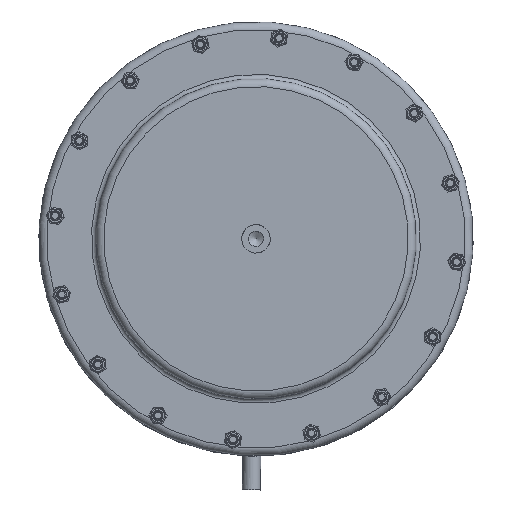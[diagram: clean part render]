
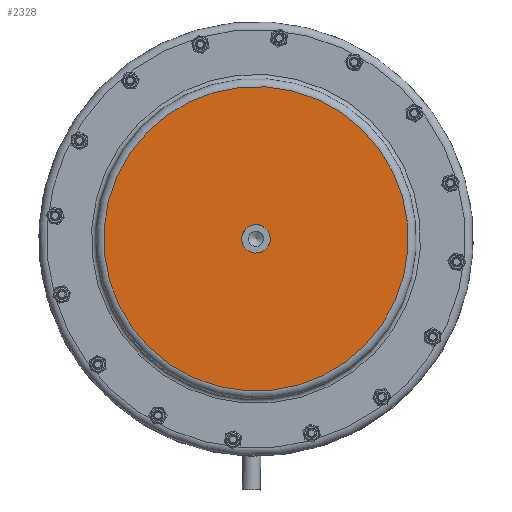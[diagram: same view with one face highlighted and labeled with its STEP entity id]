
A CAD part, top view. The second image highlights one B-rep face of the part: STEP entity #2328.
In plain terms, the highlighted planar face has unit normal (0, 0, 1).
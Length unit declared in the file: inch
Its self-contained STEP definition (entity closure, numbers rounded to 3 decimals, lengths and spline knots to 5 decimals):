
#2109=CARTESIAN_POINT('',(0.3937,0.0,1.16535));
#2110=VERTEX_POINT('',#2109);
#2111=CARTESIAN_POINT('',(0.0,0.0,1.16535));
#2112=DIRECTION('',(0.0,0.0,-1.0));
#2113=DIRECTION('',(1.0,0.0,0.0));
#2114=AXIS2_PLACEMENT_3D('',#2111,#2112,#2113);
#2115=CIRCLE('',#2114,0.3937);
#2116=EDGE_CURVE('',#2110,#2110,#2115,.T.);
#2302=CARTESIAN_POINT('',(0.0,-4.2126,1.16535));
#2303=VERTEX_POINT('',#2302);
#2304=CARTESIAN_POINT('',(0.0,0.0,1.16535));
#2305=DIRECTION('',(0.0,0.0,1.0));
#2306=DIRECTION('',(0.0,-1.0,0.0));
#2307=AXIS2_PLACEMENT_3D('',#2304,#2305,#2306);
#2308=CIRCLE('',#2307,4.2126);
#2309=EDGE_CURVE('',#2303,#2303,#2308,.T.);
#2317=CARTESIAN_POINT('',(0.0,-2.1063,1.16535));
#2318=DIRECTION('',(0.0,0.0,1.0));
#2319=DIRECTION('',(1.0,0.0,0.0));
#2320=AXIS2_PLACEMENT_3D('',#2317,#2318,#2319);
#2321=PLANE('',#2320);
#2322=ORIENTED_EDGE('',*,*,#2309,.T.);
#2323=EDGE_LOOP('',(#2322));
#2324=FACE_OUTER_BOUND('',#2323,.T.);
#2325=ORIENTED_EDGE('',*,*,#2116,.T.);
#2326=EDGE_LOOP('',(#2325));
#2327=FACE_BOUND('',#2326,.T.);
#2328=ADVANCED_FACE('',(#2324,#2327),#2321,.T.);
